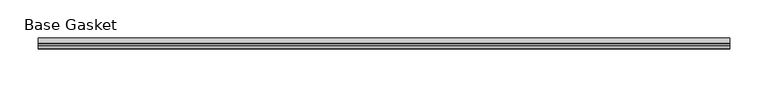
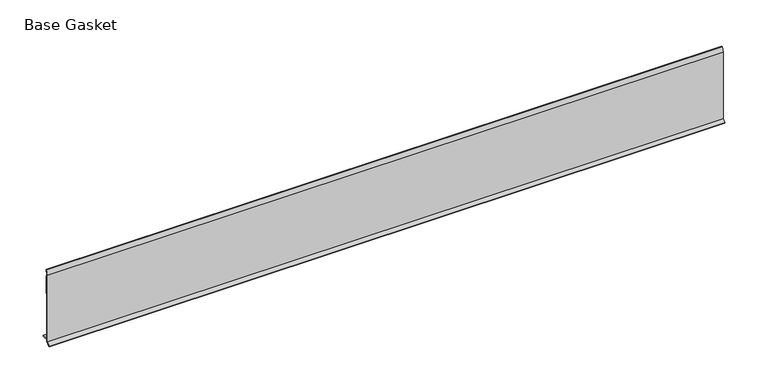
"""IFC4 building model written with IfcOpenShell, lengths in millimetres: furniture geometry, Gasket-Teknion-FHGB-AI_Healthcare-R2021 : Base Gasket."""

from ifc_helpers import new_model, si_unit, frame, origin, place, context, project, spatial, polyline, outline, extrude, source, transform, mapped, element, save


def base_gasket_026fa30e(model_context):
    return source(origin(), model_context, "Body", "SweptSolid", [
        extrude(outline(polyline([(-3.7283812, 98.4568417), (-1.1891543, 104.587663), (-0.6755308, 105.2002997), (-0.6755308, 104.4162708), (-2.2043812, 98.4568417), (-2.2043812, 96.8693477), (-1.4106313, 96.8693477), (-1.4106313, 71.4693447), (-2.2043812, 71.4693447), (-2.2043812, 7.9398773), (6.2405171, 7.9398773), (6.2405171, 6.3818476), (-2.1334222, 6.3818476), (-2.2043812, 4.3498477), (-6.8281054, 0.3520979), (-7.8482342, 0.0), (-7.4222115, 0.6560174), (-3.7283812, 4.3498477), (-3.7283812, 98.4568417)])), frame((-1527.8982117, 0.0, 0.0), z_axis=(1.0, 0.0, 0.0), x_axis=(0.0, 1.0, 0.0)), (0.0, 0.0, 1.0), 904.7750229),
    ])


if __name__ == "__main__":
    model = new_model("IFC4")
    model_context = context("Model", 3, world=origin())
    ifc_project = project(units=[si_unit("LENGTHUNIT", "METRE", prefix="MILLI")], contexts=[model_context])
    site = spatial("IfcSite", under=ifc_project)
    building = spatial("IfcBuilding", under=site)
    placement = place(None, origin())
    base_gasket_shape = base_gasket_026fa30e(model_context)
    element("IfcFurniture", 1, ObjectType="Gasket-Teknion-FHGB-AI_Healthcare-R2021 : Base Gasket", at=placement, inside=building, context=model_context, shape_type="MappedRepresentation", body=[
        mapped(base_gasket_shape, transform((0.0, 0.0, 0.0), x_axis=(1.0, 0.0, 0.0), y_axis=(0.0, 1.0, 0.0), z_axis=(0.0, 0.0, 1.0))),
    ])
    save(model, "model.ifc")
